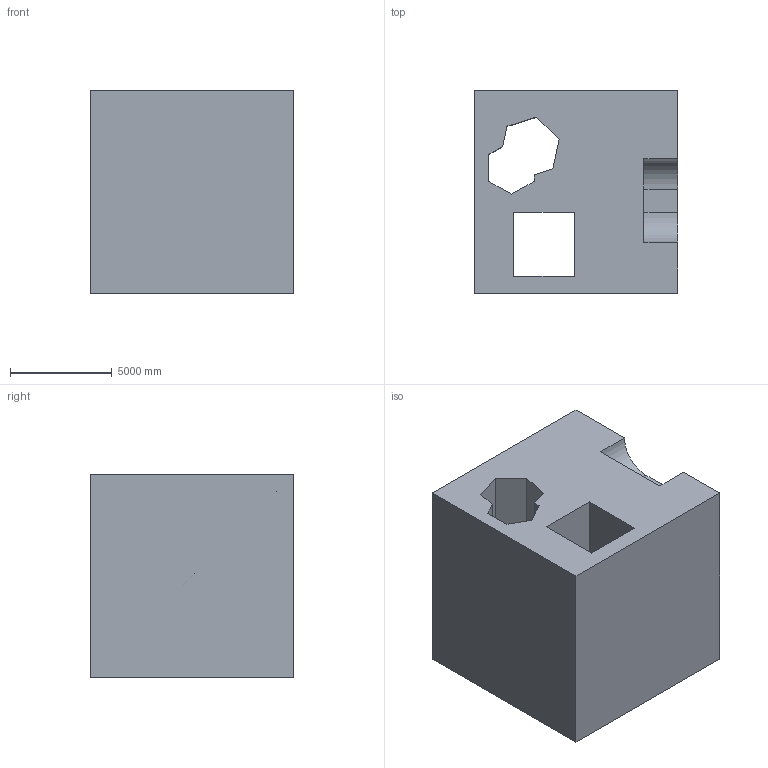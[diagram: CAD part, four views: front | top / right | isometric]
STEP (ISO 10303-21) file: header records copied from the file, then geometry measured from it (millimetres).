
FILE_DESCRIPTION (( 'STEP AP203' ), '1' );
FILE_NAME ('62.STEP', '2022-08-31T11:21:08', ( 'user' ), ( '' ), 'SwSTEP 2.0', 'SolidWorks 2021', '' );
FILE_SCHEMA (( 'CONFIG_CONTROL_DESIGN' ));
Length unit declared in the file: centimetre
Products named in the file (1): 62
Bounding box: 10000 x 10000 x 10000 mm (x, y, z)
Volume: 810829832505.8 mm3; surface area: 805706978.7 mm2
Topology: 1 solids, 1 shells, 24 faces, 66 edges, 44 vertices
Faces by surface type: plane 22, cylinder 2
Entity records: 839 total; most frequent: CARTESIAN_POINT 135, ORIENTED_EDGE 132, DIRECTION 120, EDGE_CURVE 66, LINE 62, VECTOR 62, VERTEX_POINT 44, AXIS2_PLACEMENT_3D 29
